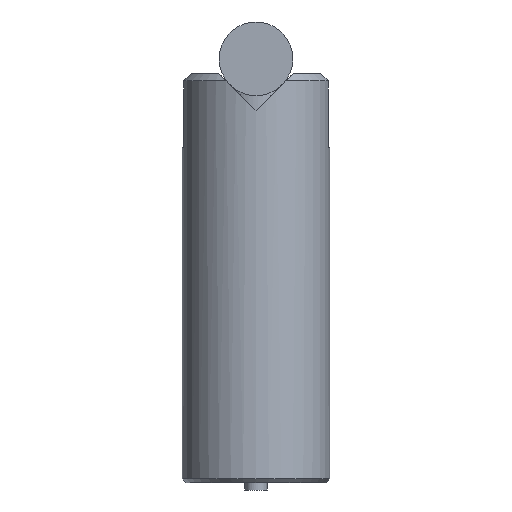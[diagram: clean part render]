
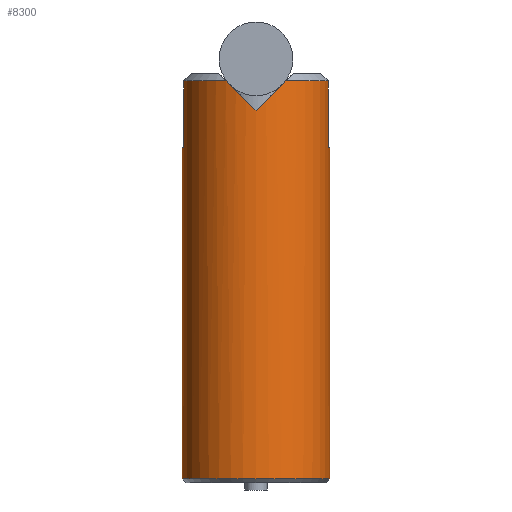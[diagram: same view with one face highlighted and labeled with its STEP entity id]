
A CAD part, front view. The second image highlights one B-rep face of the part: STEP entity #8300.
In plain terms, the highlighted cylindrical face has radius 10 mm (diameter 20 mm), a partial arc.
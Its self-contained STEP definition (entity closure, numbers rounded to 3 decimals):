
#460=CARTESIAN_POINT('',(7.4,-68.077,210.3));
#470=VERTEX_POINT('',#460);
#500=CARTESIAN_POINT('',(-2.6,-68.077,210.3));
#510=DIRECTION('',(0.,-1.,0.));
#520=DIRECTION('',(-1.,0.,0.));
#530=AXIS2_PLACEMENT_3D('',#500,#510,#520);
#540=CIRCLE('',#530,10.);
#550=CARTESIAN_POINT('',(-12.6,-68.077,210.3));
#560=VERTEX_POINT('',#550);
#760=EDGE_CURVE('',#470,#560,#540,.T.);
#1060=CARTESIAN_POINT('',(-2.6,-18.148,210.3));
#1070=DIRECTION('',(0.707,-0.707,0.));
#1080=DIRECTION('',(0.707,0.707,0.));
#1090=AXIS2_PLACEMENT_3D('',#1060,#1070,#1080);
#1100=ELLIPSE('',#1090,14.142,10.);
#1150=CARTESIAN_POINT('',(-2.6,-18.148,210.3));
#1160=DIRECTION('',(-0.707,-0.707,-0.));
#1170=DIRECTION('',(0.707,-0.707,0.));
#1180=AXIS2_PLACEMENT_3D('',#1150,#1160,#1170);
#1190=ELLIPSE('',#1180,14.142,10.);
#1410=CARTESIAN_POINT('',(-2.6,-23.077,210.3));
#1420=DIRECTION('',(0.,1.,0.));
#1430=DIRECTION('',(1.,0.,0.));
#1440=AXIS2_PLACEMENT_3D('',#1410,#1420,#1430);
#1450=CIRCLE('',#1440,10.);
#1460=CARTESIAN_POINT('',(-12.6,-23.077,210.3));
#1470=VERTEX_POINT('',#1460);
#1500=CARTESIAN_POINT('',(-12.6,-68.577,210.3));
#1510=DIRECTION('',(0.,1.,0.));
#1520=VECTOR('',#1510,1.);
#1530=LINE('',#1500,#1520);
#1540=EDGE_CURVE('',#560,#1470,#1530,.T.);
#1570=CARTESIAN_POINT('',(7.4,-68.577,210.3));
#1580=DIRECTION('',(0.,1.,0.));
#1590=VECTOR('',#1580,1.);
#1600=LINE('',#1570,#1590);
#1610=CARTESIAN_POINT('',(7.4,-23.077,210.3));
#1620=VERTEX_POINT('',#1610);
#1630=EDGE_CURVE('',#470,#1620,#1600,.T.);
#2790=CARTESIAN_POINT('',(7.198,-23.077,212.3));
#2800=VERTEX_POINT('',#2790);
#2810=EDGE_CURVE('',#2800,#1620,#1450,.T.);
#3210=CARTESIAN_POINT('',(-12.398,-23.077,212.3));
#3220=VERTEX_POINT('',#3210);
#3650=CARTESIAN_POINT('',(-12.398,-14.077,212.3));
#3660=VERTEX_POINT('',#3650);
#3690=CARTESIAN_POINT('',(-12.398,-68.577,212.3));
#3700=DIRECTION('',(0.,1.,0.));
#3710=VECTOR('',#3700,1.);
#3720=LINE('',#3690,#3710);
#3730=EDGE_CURVE('',#3220,#3660,#3720,.T.);
#4390=CARTESIAN_POINT('',(7.198,-68.577,212.3));
#4400=DIRECTION('',(0.,1.,0.));
#4410=VECTOR('',#4400,1.);
#4420=LINE('',#4390,#4410);
#4430=CARTESIAN_POINT('',(7.198,-14.077,212.3));
#4440=VERTEX_POINT('',#4430);
#4450=EDGE_CURVE('',#2800,#4440,#4420,.T.);
#4800=EDGE_CURVE('',#1470,#3220,#1450,.T.);
#6610=CARTESIAN_POINT('',(1.471,-14.077,
219.434));
#6620=VERTEX_POINT('',#6610);
#6650=CARTESIAN_POINT('',(-2.6,-18.148,220.3));
#6660=VERTEX_POINT('',#6650);
#6670=EDGE_CURVE('',#6620,#6660,#1100,.T.);
#7010=CARTESIAN_POINT('',(-6.671,-14.077,
219.434));
#7020=VERTEX_POINT('',#7010);
#7090=EDGE_CURVE('',#6660,#7020,#1190,.T.);
#7730=CARTESIAN_POINT('',(-2.6,-14.077,210.3));
#7740=DIRECTION('',(0.,-1.,0.));
#7750=DIRECTION('',(-1.,0.,0.));
#7760=AXIS2_PLACEMENT_3D('',#7730,#7740,#7750);
#7770=CIRCLE('',#7760,10.);
#7780=EDGE_CURVE('',#7020,#3660,#7770,.T.);
#8000=CARTESIAN_POINT('',(-2.6,-14.077,210.3));
#8010=DIRECTION('',(0.,-1.,0.));
#8020=DIRECTION('',(-1.,0.,0.));
#8030=AXIS2_PLACEMENT_3D('',#8000,#8010,#8020);
#8040=CIRCLE('',#8030,10.);
#8050=EDGE_CURVE('',#4440,#6620,#8040,.T.);
#8120=CARTESIAN_POINT('',(-2.6,-68.577,210.3));
#8130=DIRECTION('',(0.,1.,0.));
#8140=DIRECTION('',(1.,0.,0.));
#8150=AXIS2_PLACEMENT_3D('',#8120,#8130,#8140);
#8160=CYLINDRICAL_SURFACE('',#8150,10.);
#8170=ORIENTED_EDGE('',*,*,#760,.F.);
#8180=ORIENTED_EDGE('',*,*,#1540,.F.);
#8190=ORIENTED_EDGE('',*,*,#4800,.F.);
#8200=ORIENTED_EDGE('',*,*,#3730,.F.);
#8210=ORIENTED_EDGE('',*,*,#7780,.T.);
#8220=ORIENTED_EDGE('',*,*,#7090,.T.);
#8230=ORIENTED_EDGE('',*,*,#6670,.T.);
#8240=ORIENTED_EDGE('',*,*,#8050,.T.);
#8250=ORIENTED_EDGE('',*,*,#4450,.T.);
#8260=ORIENTED_EDGE('',*,*,#2810,.F.);
#8270=ORIENTED_EDGE('',*,*,#1630,.T.);
#8280=EDGE_LOOP('',(#8270,#8260,#8250,#8240,#8230,#8220,#8210,#8200,
#8190,#8180,#8170));
#8290=FACE_OUTER_BOUND('',#8280,.T.);
#8300=ADVANCED_FACE('',(#8290),#8160,.T.);
